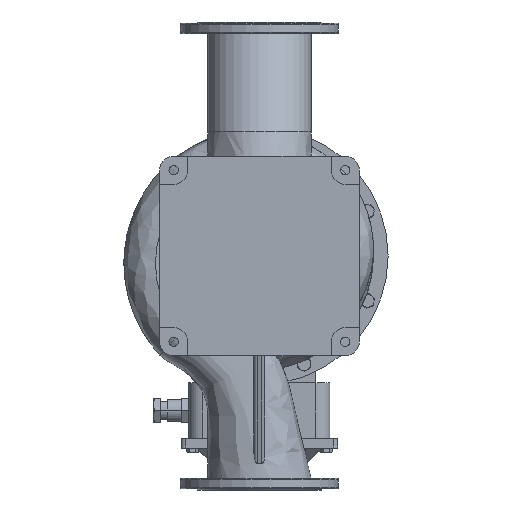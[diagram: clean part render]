
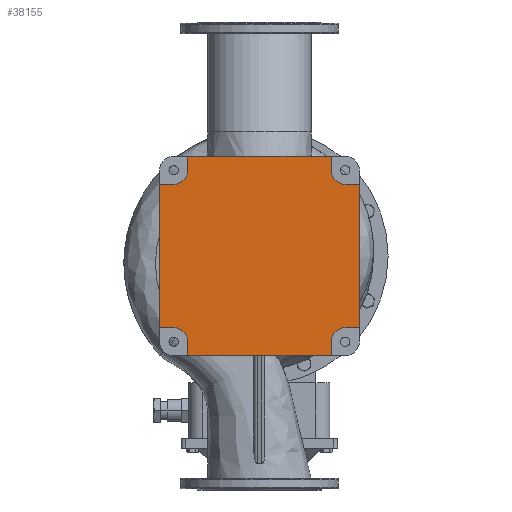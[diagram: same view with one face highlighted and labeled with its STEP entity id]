
A CAD part, front view. The second image highlights one B-rep face of the part: STEP entity #38155.
In plain terms, the highlighted planar face has unit normal (0, -1, 0).
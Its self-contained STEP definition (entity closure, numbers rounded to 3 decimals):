
#22 = VERTEX_POINT ( 'NONE', #52621 ) ;
#622 = VERTEX_POINT ( 'NONE', #85349 ) ;
#1580 = DIRECTION ( 'NONE',  ( 1., 0., 0. ) ) ;
#1999 = CARTESIAN_POINT ( 'NONE',  ( 184., -300., -256. ) ) ;
#3230 = EDGE_CURVE ( 'NONE', #73553, #4601, #78358, .T. ) ;
#3449 = DIRECTION ( 'NONE',  ( 0., 0., 1. ) ) ;
#4435 = LINE ( 'NONE', #37777, #54062 ) ;
#4601 = VERTEX_POINT ( 'NONE', #63119 ) ;
#4846 = DIRECTION ( 'NONE',  ( 0., 0., -1. ) ) ;
#5083 = ORIENTED_EDGE ( 'NONE', *, *, #37894, .T. ) ;
#5806 = DIRECTION ( 'NONE',  ( 1., 0., 0. ) ) ;
#6004 = CARTESIAN_POINT ( 'NONE',  ( -256., -300., 184. ) ) ;
#6401 = DIRECTION ( 'NONE',  ( 0., 0., 1. ) ) ;
#7558 = VECTOR ( 'NONE', #4846, 1000. ) ;
#8052 = DIRECTION ( 'NONE',  ( 0., 0., 1. ) ) ;
#8307 = ORIENTED_EDGE ( 'NONE', *, *, #83076, .T. ) ;
#8548 = DIRECTION ( 'NONE',  ( 0., 0., 1. ) ) ;
#8890 = CARTESIAN_POINT ( 'NONE',  ( -184., -300., -220. ) ) ;
#8920 = VERTEX_POINT ( 'NONE', #6004 ) ;
#8982 = CARTESIAN_POINT ( 'NONE',  ( -220., -300., -184. ) ) ;
#9332 = CARTESIAN_POINT ( 'NONE',  ( 184., -300., 256. ) ) ;
#9602 = VECTOR ( 'NONE', #52212, 1000. ) ;
#9628 = VERTEX_POINT ( 'NONE', #77869 ) ;
#9895 = CARTESIAN_POINT ( 'NONE',  ( -184., -300., 220. ) ) ;
#10687 = EDGE_CURVE ( 'NONE', #15933, #32393, #68560, .T. ) ;
#11357 = DIRECTION ( 'NONE',  ( -1., 0., 0. ) ) ;
#11359 = AXIS2_PLACEMENT_3D ( 'NONE', #47661, #42311, #8548 ) ;
#11945 = CARTESIAN_POINT ( 'NONE',  ( 256., -300., 184. ) ) ;
#12311 = EDGE_CURVE ( 'NONE', #9628, #22, #72260, .T. ) ;
#12459 = DIRECTION ( 'NONE',  ( 0., 1., 0. ) ) ;
#13836 = EDGE_CURVE ( 'NONE', #30424, #46202, #84262, .T. ) ;
#14622 = ORIENTED_EDGE ( 'NONE', *, *, #79935, .T. ) ;
#15196 = LINE ( 'NONE', #28544, #72987 ) ;
#15594 = LINE ( 'NONE', #20954, #77040 ) ;
#15635 = DIRECTION ( 'NONE',  ( -1., 0., 0. ) ) ;
#15933 = VERTEX_POINT ( 'NONE', #49637 ) ;
#17018 = ORIENTED_EDGE ( 'NONE', *, *, #49028, .T. ) ;
#19913 = EDGE_LOOP ( 'NONE', ( #36185, #17018, #57249, #24510, #60777, #8307, #64588, #54772, #39273, #35202, #35981, #83896, #40127, #5083, #14622, #69675 ) ) ;
#20755 = VERTEX_POINT ( 'NONE', #81548 ) ;
#20954 = CARTESIAN_POINT ( 'NONE',  ( 184., -300., 220. ) ) ;
#22040 = VECTOR ( 'NONE', #11357, 1000. ) ;
#23550 = LINE ( 'NONE', #85327, #7558 ) ;
#24510 = ORIENTED_EDGE ( 'NONE', *, *, #12311, .T. ) ;
#25311 = DIRECTION ( 'NONE',  ( -1., 0., 0. ) ) ;
#26672 = EDGE_CURVE ( 'NONE', #57252, #73553, #84025, .T. ) ;
#26840 = CARTESIAN_POINT ( 'NONE',  ( -220., -300., 220. ) ) ;
#28544 = CARTESIAN_POINT ( 'NONE',  ( -220., -300., 184. ) ) ;
#28751 = CIRCLE ( 'NONE', #40097, 36. ) ;
#29810 = CARTESIAN_POINT ( 'NONE',  ( 220., -300., -184. ) ) ;
#30424 = VERTEX_POINT ( 'NONE', #11945 ) ;
#32393 = VERTEX_POINT ( 'NONE', #60146 ) ;
#32892 = PLANE ( 'NONE',  #47394 ) ;
#33361 = CARTESIAN_POINT ( 'NONE',  ( -184., -300., 256. ) ) ;
#34026 = LINE ( 'NONE', #1999, #75717 ) ;
#34352 = CARTESIAN_POINT ( 'NONE',  ( -184., -300., -256. ) ) ;
#34473 = EDGE_CURVE ( 'NONE', #22, #78792, #83755, .T. ) ;
#35202 = ORIENTED_EDGE ( 'NONE', *, *, #82181, .T. ) ;
#35981 = ORIENTED_EDGE ( 'NONE', *, *, #26672, .T. ) ;
#36074 = DIRECTION ( 'NONE',  ( 0., 1., 0. ) ) ;
#36185 = ORIENTED_EDGE ( 'NONE', *, *, #63718, .T. ) ;
#37777 = CARTESIAN_POINT ( 'NONE',  ( -256., -300., -184. ) ) ;
#37894 = EDGE_CURVE ( 'NONE', #20755, #8920, #15196, .T. ) ;
#38155 = ADVANCED_FACE ( 'NONE', ( #46235 ), #32892, .F. ) ;
#39273 = ORIENTED_EDGE ( 'NONE', *, *, #87930, .T. ) ;
#39297 = VECTOR ( 'NONE', #25311, 1000. ) ;
#40097 = AXIS2_PLACEMENT_3D ( 'NONE', #26840, #66398, #6401 ) ;
#40127 = ORIENTED_EDGE ( 'NONE', *, *, #82082, .T. ) ;
#42311 = DIRECTION ( 'NONE',  ( 0., 1., 0. ) ) ;
#42327 = DIRECTION ( 'NONE',  ( 0., 0., 1. ) ) ;
#43648 = DIRECTION ( 'NONE',  ( 0., 0., -1. ) ) ;
#46202 = VERTEX_POINT ( 'NONE', #69813 ) ;
#46235 = FACE_OUTER_BOUND ( 'NONE', #19913, .T. ) ;
#47394 = AXIS2_PLACEMENT_3D ( 'NONE', #54652, #12459, #5806 ) ;
#47661 = CARTESIAN_POINT ( 'NONE',  ( 220., -300., -220. ) ) ;
#47941 = VERTEX_POINT ( 'NONE', #8890 ) ;
#48549 = DIRECTION ( 'NONE',  ( 1., 0., 0. ) ) ;
#48589 = EDGE_CURVE ( 'NONE', #48968, #9628, #34026, .T. ) ;
#48968 = VERTEX_POINT ( 'NONE', #34352 ) ;
#49028 = EDGE_CURVE ( 'NONE', #47941, #48968, #23550, .T. ) ;
#49637 = CARTESIAN_POINT ( 'NONE',  ( -256., -300., -184. ) ) ;
#49975 = EDGE_CURVE ( 'NONE', #622, #30424, #59137, .T. ) ;
#50216 = CARTESIAN_POINT ( 'NONE',  ( -184., -300., 256. ) ) ;
#50553 = DIRECTION ( 'NONE',  ( 0., 1., 0. ) ) ;
#51099 = DIRECTION ( 'NONE',  ( 0., 0., -1. ) ) ;
#51506 = CARTESIAN_POINT ( 'NONE',  ( 220., -300., -184. ) ) ;
#51865 = CARTESIAN_POINT ( 'NONE',  ( 220., -300., 220. ) ) ;
#52212 = DIRECTION ( 'NONE',  ( 0., 0., 1. ) ) ;
#52621 = CARTESIAN_POINT ( 'NONE',  ( 184., -300., -220. ) ) ;
#54062 = VECTOR ( 'NONE', #51099, 1000. ) ;
#54652 = CARTESIAN_POINT ( 'NONE',  ( -220., -300., -220. ) ) ;
#54772 = ORIENTED_EDGE ( 'NONE', *, *, #13836, .T. ) ;
#55530 = VECTOR ( 'NONE', #43648, 1000. ) ;
#56908 = DIRECTION ( 'NONE',  ( 1., 0., 0. ) ) ;
#57249 = ORIENTED_EDGE ( 'NONE', *, *, #48589, .T. ) ;
#57252 = VERTEX_POINT ( 'NONE', #9332 ) ;
#57588 = CARTESIAN_POINT ( 'NONE',  ( 220., -300., 184. ) ) ;
#59137 = LINE ( 'NONE', #86254, #65853 ) ;
#59468 = VERTEX_POINT ( 'NONE', #75406 ) ;
#60146 = CARTESIAN_POINT ( 'NONE',  ( -220., -300., -184. ) ) ;
#60777 = ORIENTED_EDGE ( 'NONE', *, *, #34473, .T. ) ;
#63119 = CARTESIAN_POINT ( 'NONE',  ( -184., -300., 220. ) ) ;
#63579 = LINE ( 'NONE', #29810, #82825 ) ;
#63718 = EDGE_CURVE ( 'NONE', #32393, #47941, #77750, .T. ) ;
#64588 = ORIENTED_EDGE ( 'NONE', *, *, #49975, .T. ) ;
#65853 = VECTOR ( 'NONE', #80496, 1000. ) ;
#66398 = DIRECTION ( 'NONE',  ( 0., 1., 0. ) ) ;
#68560 = LINE ( 'NONE', #8982, #74968 ) ;
#69143 = AXIS2_PLACEMENT_3D ( 'NONE', #51865, #50553, #3449 ) ;
#69675 = ORIENTED_EDGE ( 'NONE', *, *, #10687, .T. ) ;
#69813 = CARTESIAN_POINT ( 'NONE',  ( 220., -300., 184. ) ) ;
#72027 = AXIS2_PLACEMENT_3D ( 'NONE', #76567, #36074, #42327 ) ;
#72260 = LINE ( 'NONE', #85577, #9602 ) ;
#72987 = VECTOR ( 'NONE', #15635, 1000. ) ;
#73553 = VERTEX_POINT ( 'NONE', #33361 ) ;
#74968 = VECTOR ( 'NONE', #48549, 1000. ) ;
#75406 = CARTESIAN_POINT ( 'NONE',  ( 184., -300., 220. ) ) ;
#75717 = VECTOR ( 'NONE', #1580, 1000. ) ;
#76567 = CARTESIAN_POINT ( 'NONE',  ( -220., -300., -220. ) ) ;
#77040 = VECTOR ( 'NONE', #8052, 1000. ) ;
#77750 = CIRCLE ( 'NONE', #72027, 36. ) ;
#77869 = CARTESIAN_POINT ( 'NONE',  ( 184., -300., -256. ) ) ;
#78358 = LINE ( 'NONE', #9895, #55530 ) ;
#78792 = VERTEX_POINT ( 'NONE', #51506 ) ;
#79935 = EDGE_CURVE ( 'NONE', #8920, #15933, #4435, .T. ) ;
#80496 = DIRECTION ( 'NONE',  ( 0., 0., 1. ) ) ;
#81548 = CARTESIAN_POINT ( 'NONE',  ( -220., -300., 184. ) ) ;
#82082 = EDGE_CURVE ( 'NONE', #4601, #20755, #28751, .T. ) ;
#82181 = EDGE_CURVE ( 'NONE', #59468, #57252, #15594, .T. ) ;
#82825 = VECTOR ( 'NONE', #56908, 1000. ) ;
#83076 = EDGE_CURVE ( 'NONE', #78792, #622, #63579, .T. ) ;
#83350 = CIRCLE ( 'NONE', #69143, 36. ) ;
#83755 = CIRCLE ( 'NONE', #11359, 36. ) ;
#83896 = ORIENTED_EDGE ( 'NONE', *, *, #3230, .T. ) ;
#84025 = LINE ( 'NONE', #50216, #39297 ) ;
#84262 = LINE ( 'NONE', #57588, #22040 ) ;
#85327 = CARTESIAN_POINT ( 'NONE',  ( -184., -300., -220. ) ) ;
#85349 = CARTESIAN_POINT ( 'NONE',  ( 256., -300., -184. ) ) ;
#85577 = CARTESIAN_POINT ( 'NONE',  ( 184., -300., -220. ) ) ;
#86254 = CARTESIAN_POINT ( 'NONE',  ( 256., -300., 184. ) ) ;
#87930 = EDGE_CURVE ( 'NONE', #46202, #59468, #83350, .T. ) ;
